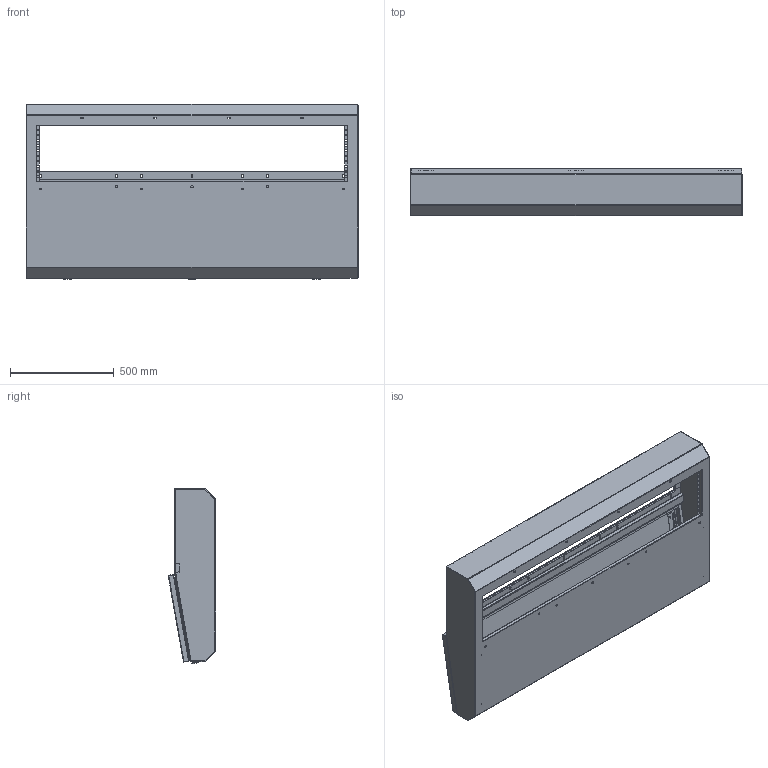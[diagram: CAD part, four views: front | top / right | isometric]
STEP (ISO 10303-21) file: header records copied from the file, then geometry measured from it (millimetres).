
FILE_DESCRIPTION (( 'STEP AP203' ), '1' );
FILE_NAME ('LE164.STEP', '2025-01-21T10:57:30', ( '' ), ( '' ), 'SwSTEP 2.0', 'SolidWorks 2022', '' );
FILE_SCHEMA (( 'CONFIG_CONTROL_DESIGN' ));
Length unit declared in the file: millimetre
Products named in the file (4): LE164; AR_LE_-prof.400-500_1600-P400; AR_LE_pannello_frontale_1600; AR_ST_chiusura_std_WE250
Assembly tree (5 placements, depth 2):
  LE164
    AR_LE_-prof.400-500_1600-P400
    AR_LE_pannello_frontale_1600
    AR_ST_chiusura_std_WE250  x3
Bounding box: 1600 x 228.95 x 843.78 mm (x, y, z)
Volume: 12172879.4 mm3; surface area: 6369909.9 mm2
Topology: 6 solids, 8 shells, 942 faces, 2498 edges, 1617 vertices
Faces by surface type: plane 442, cylinder 440, cone 32, sphere 24, torus 4
Entity records: 29115 total; most frequent: DIRECTION 5129, CARTESIAN_POINT 4917, ORIENTED_EDGE 4812, EDGE_CURVE 2406, AXIS2_PLACEMENT_3D 1815, VERTEX_POINT 1563, VECTOR 1499, LINE 1499
